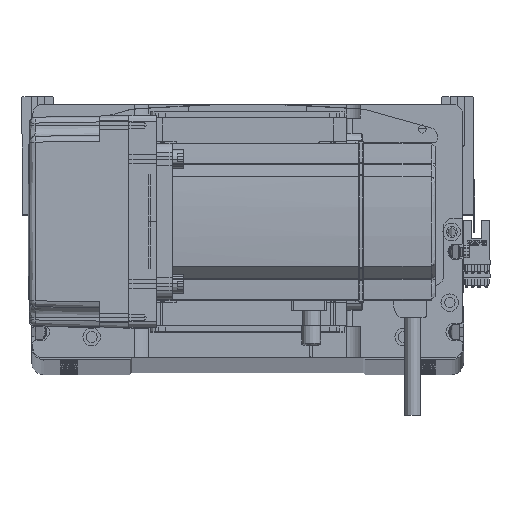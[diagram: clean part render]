
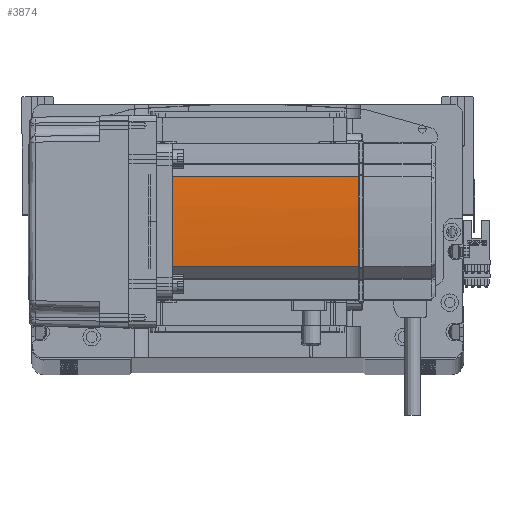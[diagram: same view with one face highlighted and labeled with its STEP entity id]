
A CAD part, top view. The second image highlights one B-rep face of the part: STEP entity #3874.
In plain terms, the highlighted cylindrical face has radius 270 mm (diameter 540 mm), a partial arc.
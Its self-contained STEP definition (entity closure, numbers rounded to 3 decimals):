
#445 = CIRCLE ( 'NONE', #34894, 270. ) ;
#2527 = AXIS2_PLACEMENT_3D ( 'NONE', #53355, #43538, #43739 ) ;
#2542 = DIRECTION ( 'NONE',  ( 0., 0., -1. ) ) ;
#3319 = VECTOR ( 'NONE', #25129, 1000. ) ;
#3861 = CARTESIAN_POINT ( 'NONE',  ( 40., 0.042, 134. ) ) ;
#3874 = ADVANCED_FACE ( 'NONE', ( #30376 ), #24142, .T. ) ;
#5736 = ORIENTED_EDGE ( 'NONE', *, *, #39843, .F. ) ;
#5865 = VERTEX_POINT ( 'NONE', #48345 ) ;
#6001 = DIRECTION ( 'NONE',  ( -1., 0., 0. ) ) ;
#7396 = CARTESIAN_POINT ( 'NONE',  ( -230., 0., 134. ) ) ;
#7432 = CARTESIAN_POINT ( 'NONE',  ( -230., 0., 134. ) ) ;
#8138 = VERTEX_POINT ( 'NONE', #26829 ) ;
#8524 = CARTESIAN_POINT ( 'NONE',  ( 40., 0.127, 134. ) ) ;
#11970 = ORIENTED_EDGE ( 'NONE', *, *, #22777, .T. ) ;
#14056 = VECTOR ( 'NONE', #38974, 1000. ) ;
#16271 = CARTESIAN_POINT ( 'NONE',  ( 39.042, 22.724, 39. ) ) ;
#17737 = EDGE_CURVE ( 'NONE', #22536, #32139, #445, .T. ) ;
#18681 = EDGE_CURVE ( 'NONE', #5865, #32139, #27229, .T. ) ;
#20245 = VERTEX_POINT ( 'NONE', #55400 ) ;
#21411 = ORIENTED_EDGE ( 'NONE', *, *, #17737, .F. ) ;
#21925 = CIRCLE ( 'NONE', #43904, 270. ) ;
#22536 = VERTEX_POINT ( 'NONE', #16271 ) ;
#22777 = EDGE_CURVE ( 'NONE', #22536, #20245, #31037, .T. ) ;
#24142 = CYLINDRICAL_SURFACE ( 'NONE', #2527, 270. ) ;
#25129 = DIRECTION ( 'NONE',  ( 0., 0., 1. ) ) ;
#26065 = DIRECTION ( 'NONE',  ( 0., 0., -1. ) ) ;
#26829 = CARTESIAN_POINT ( 'NONE',  ( 40., 0.127, 134. ) ) ;
#27120 = CIRCLE ( 'NONE', #53620, 270. ) ;
#27229 = LINE ( 'NONE', #29759, #14056 ) ;
#28256 = EDGE_LOOP ( 'NONE', ( #54576, #21411, #11970, #49589, #5736, #40085 ) ) ;
#28612 = CARTESIAN_POINT ( 'NONE',  ( 40., -0.127, 134. ) ) ;
#29759 = CARTESIAN_POINT ( 'NONE',  ( 39.042, -22.724, 58. ) ) ;
#30376 = FACE_OUTER_BOUND ( 'NONE', #28256, .T. ) ;
#31037 = LINE ( 'NONE', #35633, #3319 ) ;
#32139 = VERTEX_POINT ( 'NONE', #48475 ) ;
#33535 = EDGE_CURVE ( 'NONE', #20245, #8138, #21925, .T. ) ;
#34214 = CARTESIAN_POINT ( 'NONE',  ( 40., -0.127, 134. ) ) ;
#34894 = AXIS2_PLACEMENT_3D ( 'NONE', #50648, #26065, #6001 ) ;
#35633 = CARTESIAN_POINT ( 'NONE',  ( 39.042, 22.724, 58. ) ) ;
#37320 = DIRECTION ( 'NONE',  ( 0., 0., -1. ) ) ;
#38974 = DIRECTION ( 'NONE',  ( 0., 0., -1. ) ) ;
#39843 = EDGE_CURVE ( 'NONE', #41406, #8138, #52885, .T. ) ;
#40085 = ORIENTED_EDGE ( 'NONE', *, *, #47947, .T. ) ;
#41406 = VERTEX_POINT ( 'NONE', #34214 ) ;
#42434 = DIRECTION ( 'NONE',  ( -1., 0., 0. ) ) ;
#43538 = DIRECTION ( 'NONE',  ( 0., 0., -1. ) ) ;
#43739 = DIRECTION ( 'NONE',  ( -1., 0., 0. ) ) ;
#43904 = AXIS2_PLACEMENT_3D ( 'NONE', #7396, #37320, #42434 ) ;
#46134 = DIRECTION ( 'NONE',  ( -1., 0., 0. ) ) ;
#47659 = CARTESIAN_POINT ( 'NONE',  ( 40., -0.042, 134. ) ) ;
#47947 = EDGE_CURVE ( 'NONE', #41406, #5865, #27120, .T. ) ;
#48345 = CARTESIAN_POINT ( 'NONE',  ( 39.042, -22.724, 134. ) ) ;
#48475 = CARTESIAN_POINT ( 'NONE',  ( 39.042, -22.724, 39. ) ) ;
#49589 = ORIENTED_EDGE ( 'NONE', *, *, #33535, .T. ) ;
#50648 = CARTESIAN_POINT ( 'NONE',  ( -230., 0., 39. ) ) ;
#52885 = B_SPLINE_CURVE_WITH_KNOTS ( 'NONE', 3,
 ( #28612, #47659, #3861, #8524 ),
 .UNSPECIFIED., .F., .F.,
 ( 4, 4 ),
 ( 0., 1. ),
 .UNSPECIFIED. ) ;
#53355 = CARTESIAN_POINT ( 'NONE',  ( -230., 0., 58. ) ) ;
#53620 = AXIS2_PLACEMENT_3D ( 'NONE', #7432, #2542, #46134 ) ;
#54576 = ORIENTED_EDGE ( 'NONE', *, *, #18681, .T. ) ;
#55400 = CARTESIAN_POINT ( 'NONE',  ( 39.042, 22.724, 134. ) ) ;
